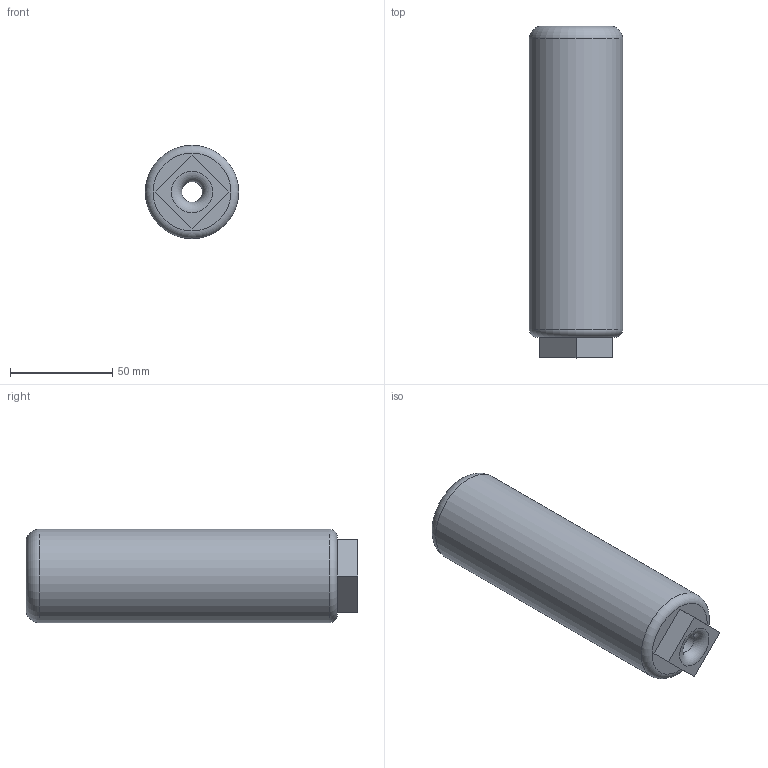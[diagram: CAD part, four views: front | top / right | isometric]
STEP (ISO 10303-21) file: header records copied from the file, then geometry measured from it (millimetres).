
FILE_DESCRIPTION(/* description */ (''),/* implementation_level */ '2;1');
FILE_NAME(/* name */ 'C:/Users/Owner/Desktop/liberator suppressed/STEP Files/36 Caliber versions/36 Cal Liberator Suppressor can 6.4 inch.step',/* time_stamp */ '2020-04-23T21:48:18-04:00',/* author */ (''),/* organization */ (''),/* preprocessor_version */ 'ST-DEVELOPER v18.1',/* originating_system */ 'Autodesk Translation Framework v9.2.0.1227',/* authorisation */ '');
FILE_SCHEMA (('AUTOMOTIVE_DESIGN { 1 0 10303 214 3 1 1 }'));
Length unit declared in the file: inch
Products named in the file (1): 38/9mm lib sup 6.4 inch
Bounding box: 45.72 x 162.56 x 45.72 mm (x, y, z)
Volume: 174760.9 mm3; surface area: 40407.5 mm2
Topology: 1 solids, 1 shells, 48 faces, 130 edges, 86 vertices
Faces by surface type: cylinder 32, plane 9, torus 5, bspline 2
Full cylindrical faces by diameter (mm): 10.16 x1, 27.038 x14, 30.162 x13, 45.72 x1
Entity records: 4303 total; most frequent: CARTESIAN_POINT 3138, ORIENTED_EDGE 260, DIRECTION 199, EDGE_CURVE 130, VERTEX_POINT 86, AXIS2_PLACEMENT_3D 78, B_SPLINE_CURVE_WITH_KNOTS 56, EDGE_LOOP 52
